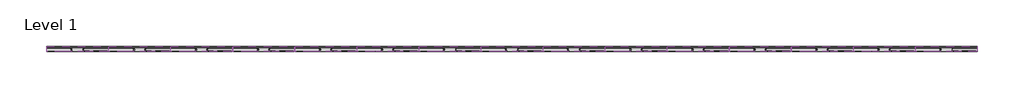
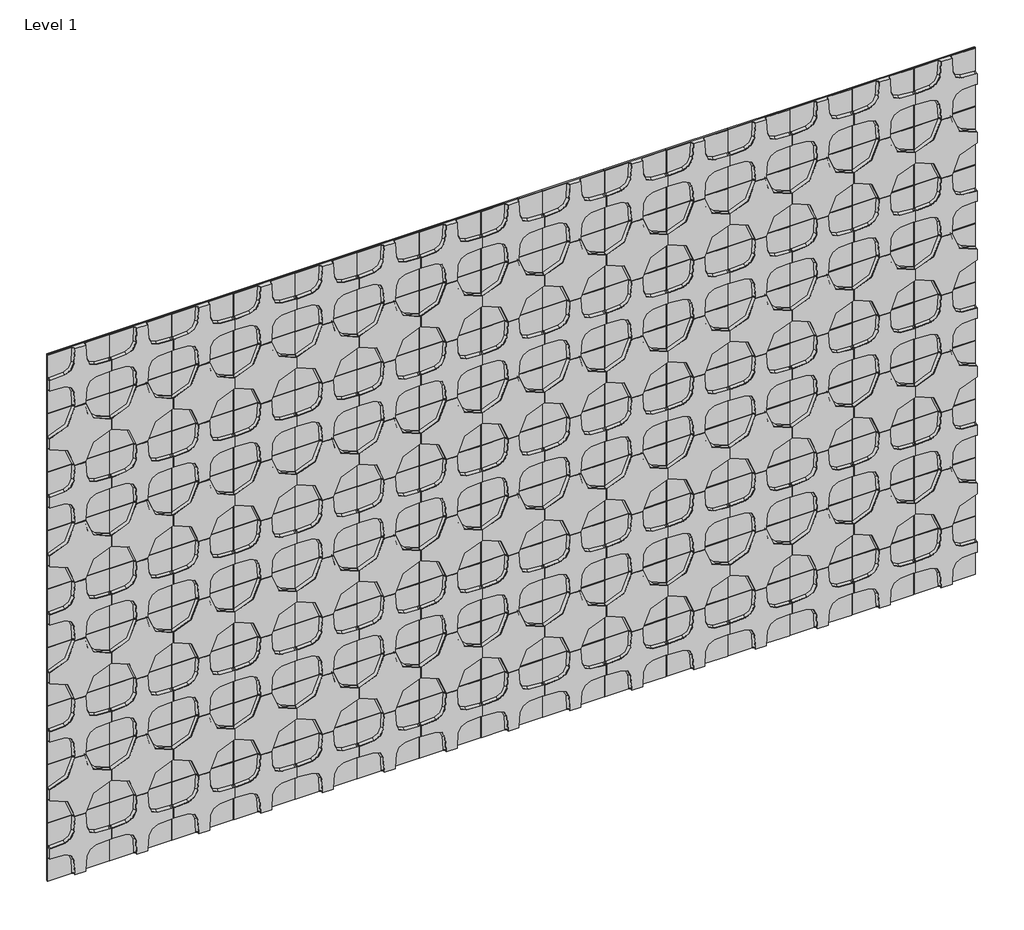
# One storey: 135 proxies.
"""IFC4 building model written with IfcOpenShell, lengths in millimetres."""

from ifc_helpers import new_model, si_unit, origin, place, context, project, spatial, transform, mapped, element, save
from components import specialty_equipment_d3eebbf5, specialty_equipment_d5421138

model = new_model("IFC4")

# Units and contexts
model_context = context("Model", 3, world=origin())
ifc_project = project(units=[si_unit("LENGTHUNIT", "METRE", prefix="MILLI")], contexts=[model_context])

# Site, building, storey
site = spatial("IfcSite", under=ifc_project)
building = spatial("IfcBuilding", under=site)
storey = spatial("IfcBuildingStorey", under=building, Name="Level 1", Elevation=0.0)

# Proxies
placement = place(None, origin())
specialty_equipment_shape = specialty_equipment_d3eebbf5(model_context)
element("IfcBuildingElementProxy", 1, Name="Spinneybeck_Quartile : Quartile 1", ObjectType="Spinneybeck_Quartile : Quartile 1", at=placement, inside=storey, context=model_context, shape_type="MappedRepresentation", body=[
    mapped(specialty_equipment_shape, transform((-9133.2606366, 2074.1714817, 2286.0), x_axis=(1.0, 0.0, 0.0), y_axis=(0.0, 0.0, 1.0), z_axis=(0.0, -1.0, 0.0))),
])
element("IfcBuildingElementProxy", 2, Name="Spinneybeck_Quartile : Quartile 1", ObjectType="Spinneybeck_Quartile : Quartile 1", at=placement, inside=storey, context=model_context, shape_type="MappedRepresentation", body=[
    mapped(specialty_equipment_shape, transform((-8828.4606366, 2074.1714817, 2286.0), x_axis=(1.0, 0.0, 0.0), y_axis=(0.0, 0.0, 1.0), z_axis=(0.0, -1.0, 0.0))),
])
element("IfcBuildingElementProxy", 3, Name="Spinneybeck_Quartile : Quartile 1", ObjectType="Spinneybeck_Quartile : Quartile 1", at=placement, inside=storey, context=model_context, shape_type="MappedRepresentation", body=[
    mapped(specialty_equipment_shape, transform((-8523.6606366, 2074.1714817, 2286.0), x_axis=(1.0, 0.0, 0.0), y_axis=(0.0, 0.0, 1.0), z_axis=(0.0, -1.0, 0.0))),
])
element("IfcBuildingElementProxy", 4, Name="Spinneybeck_Quartile : Quartile 1", ObjectType="Spinneybeck_Quartile : Quartile 1", at=placement, inside=storey, context=model_context, shape_type="MappedRepresentation", body=[
    mapped(specialty_equipment_shape, transform((-8218.8606366, 2074.1714817, 2286.0), x_axis=(1.0, 0.0, 0.0), y_axis=(0.0, 0.0, 1.0), z_axis=(0.0, -1.0, 0.0))),
])
element("IfcBuildingElementProxy", 5, Name="Spinneybeck_Quartile : Quartile 1", ObjectType="Spinneybeck_Quartile : Quartile 1", at=placement, inside=storey, context=model_context, shape_type="MappedRepresentation", body=[
    mapped(specialty_equipment_shape, transform((-7914.0606366, 2074.1714817, 2286.0), x_axis=(1.0, 0.0, 0.0), y_axis=(0.0, 0.0, 1.0), z_axis=(0.0, -1.0, 0.0))),
])
element("IfcBuildingElementProxy", 6, Name="Spinneybeck_Quartile : Quartile 1", ObjectType="Spinneybeck_Quartile : Quartile 1", at=placement, inside=storey, context=model_context, shape_type="MappedRepresentation", body=[
    mapped(specialty_equipment_shape, transform((-7609.2606366, 2074.1714817, 2286.0), x_axis=(1.0, 0.0, 0.0), y_axis=(0.0, 0.0, 1.0), z_axis=(0.0, -1.0, 0.0))),
])
element("IfcBuildingElementProxy", 7, Name="Spinneybeck_Quartile : Quartile 1", ObjectType="Spinneybeck_Quartile : Quartile 1", at=placement, inside=storey, context=model_context, shape_type="MappedRepresentation", body=[
    mapped(specialty_equipment_shape, transform((-7304.4606366, 2074.1714817, 2286.0), x_axis=(1.0, 0.0, 0.0), y_axis=(0.0, 0.0, 1.0), z_axis=(0.0, -1.0, 0.0))),
])
element("IfcBuildingElementProxy", 8, Name="Spinneybeck_Quartile : Quartile 1", ObjectType="Spinneybeck_Quartile : Quartile 1", at=placement, inside=storey, context=model_context, shape_type="MappedRepresentation", body=[
    mapped(specialty_equipment_shape, transform((-6999.6606366, 2074.1714817, 2286.0), x_axis=(1.0, 0.0, 0.0), y_axis=(0.0, 0.0, 1.0), z_axis=(0.0, -1.0, 0.0))),
])
element("IfcBuildingElementProxy", 9, Name="Spinneybeck_Quartile : Quartile 1", ObjectType="Spinneybeck_Quartile : Quartile 1", at=placement, inside=storey, context=model_context, shape_type="MappedRepresentation", body=[
    mapped(specialty_equipment_shape, transform((-6694.8606366, 2074.1714817, 2286.0), x_axis=(1.0, 0.0, 0.0), y_axis=(0.0, 0.0, 1.0), z_axis=(0.0, -1.0, 0.0))),
])
element("IfcBuildingElementProxy", 10, Name="Spinneybeck_Quartile : Quartile 1", ObjectType="Spinneybeck_Quartile : Quartile 1", at=placement, inside=storey, context=model_context, shape_type="MappedRepresentation", body=[
    mapped(specialty_equipment_shape, transform((-6390.0606366, 2074.1714817, 2286.0), x_axis=(1.0, 0.0, 0.0), y_axis=(0.0, 0.0, 1.0), z_axis=(0.0, -1.0, 0.0))),
])
element("IfcBuildingElementProxy", 11, Name="Spinneybeck_Quartile : Quartile 1", ObjectType="Spinneybeck_Quartile : Quartile 1", at=placement, inside=storey, context=model_context, shape_type="MappedRepresentation", body=[
    mapped(specialty_equipment_shape, transform((-6085.2606366, 2074.1714817, 2286.0), x_axis=(1.0, 0.0, 0.0), y_axis=(0.0, 0.0, 1.0), z_axis=(0.0, -1.0, 0.0))),
])
element("IfcBuildingElementProxy", 12, Name="Spinneybeck_Quartile : Quartile 1", ObjectType="Spinneybeck_Quartile : Quartile 1", at=placement, inside=storey, context=model_context, shape_type="MappedRepresentation", body=[
    mapped(specialty_equipment_shape, transform((-5780.4606366, 2074.1714817, 2286.0), x_axis=(1.0, 0.0, 0.0), y_axis=(0.0, 0.0, 1.0), z_axis=(0.0, -1.0, 0.0))),
])
element("IfcBuildingElementProxy", 13, Name="Spinneybeck_Quartile : Quartile 1", ObjectType="Spinneybeck_Quartile : Quartile 1", at=placement, inside=storey, context=model_context, shape_type="MappedRepresentation", body=[
    mapped(specialty_equipment_shape, transform((-5475.6606366, 2074.1714817, 2286.0), x_axis=(1.0, 0.0, 0.0), y_axis=(0.0, 0.0, 1.0), z_axis=(0.0, -1.0, 0.0))),
])
element("IfcBuildingElementProxy", 14, Name="Spinneybeck_Quartile : Quartile 1", ObjectType="Spinneybeck_Quartile : Quartile 1", at=placement, inside=storey, context=model_context, shape_type="MappedRepresentation", body=[
    mapped(specialty_equipment_shape, transform((-5170.8606366, 2074.1714817, 2286.0), x_axis=(1.0, 0.0, 0.0), y_axis=(0.0, 0.0, 1.0), z_axis=(0.0, -1.0, 0.0))),
])
element("IfcBuildingElementProxy", 15, Name="Spinneybeck_Quartile : Quartile 1", ObjectType="Spinneybeck_Quartile : Quartile 1", at=placement, inside=storey, context=model_context, shape_type="MappedRepresentation", body=[
    mapped(specialty_equipment_shape, transform((-4866.0606366, 2074.1714817, 2286.0), x_axis=(1.0, 0.0, 0.0), y_axis=(0.0, 0.0, 1.0), z_axis=(0.0, -1.0, 0.0))),
])
element("IfcBuildingElementProxy", 16, Name="Spinneybeck_Quartile : Quartile 1", ObjectType="Spinneybeck_Quartile : Quartile 1", at=placement, inside=storey, context=model_context, shape_type="MappedRepresentation", body=[
    mapped(specialty_equipment_shape, transform((-9133.2606366, 2074.1714817, 1676.4), x_axis=(1.0, 0.0, 0.0), y_axis=(0.0, 0.0, 1.0), z_axis=(0.0, -1.0, 0.0))),
])
element("IfcBuildingElementProxy", 17, Name="Spinneybeck_Quartile : Quartile 1", ObjectType="Spinneybeck_Quartile : Quartile 1", at=placement, inside=storey, context=model_context, shape_type="MappedRepresentation", body=[
    mapped(specialty_equipment_shape, transform((-8828.4606366, 2074.1714817, 1676.4), x_axis=(1.0, 0.0, 0.0), y_axis=(0.0, 0.0, 1.0), z_axis=(0.0, -1.0, 0.0))),
])
element("IfcBuildingElementProxy", 18, Name="Spinneybeck_Quartile : Quartile 1", ObjectType="Spinneybeck_Quartile : Quartile 1", at=placement, inside=storey, context=model_context, shape_type="MappedRepresentation", body=[
    mapped(specialty_equipment_shape, transform((-8523.6606366, 2074.1714817, 1676.4), x_axis=(1.0, 0.0, 0.0), y_axis=(0.0, 0.0, 1.0), z_axis=(0.0, -1.0, 0.0))),
])
element("IfcBuildingElementProxy", 19, Name="Spinneybeck_Quartile : Quartile 1", ObjectType="Spinneybeck_Quartile : Quartile 1", at=placement, inside=storey, context=model_context, shape_type="MappedRepresentation", body=[
    mapped(specialty_equipment_shape, transform((-8218.8606366, 2074.1714817, 1676.4), x_axis=(1.0, 0.0, 0.0), y_axis=(0.0, 0.0, 1.0), z_axis=(0.0, -1.0, 0.0))),
])
element("IfcBuildingElementProxy", 20, Name="Spinneybeck_Quartile : Quartile 1", ObjectType="Spinneybeck_Quartile : Quartile 1", at=placement, inside=storey, context=model_context, shape_type="MappedRepresentation", body=[
    mapped(specialty_equipment_shape, transform((-7914.0606366, 2074.1714817, 1676.4), x_axis=(1.0, 0.0, 0.0), y_axis=(0.0, 0.0, 1.0), z_axis=(0.0, -1.0, 0.0))),
])
element("IfcBuildingElementProxy", 21, Name="Spinneybeck_Quartile : Quartile 1", ObjectType="Spinneybeck_Quartile : Quartile 1", at=placement, inside=storey, context=model_context, shape_type="MappedRepresentation", body=[
    mapped(specialty_equipment_shape, transform((-7609.2606366, 2074.1714817, 1676.4), x_axis=(1.0, 0.0, 0.0), y_axis=(0.0, 0.0, 1.0), z_axis=(0.0, -1.0, 0.0))),
])
element("IfcBuildingElementProxy", 22, Name="Spinneybeck_Quartile : Quartile 1", ObjectType="Spinneybeck_Quartile : Quartile 1", at=placement, inside=storey, context=model_context, shape_type="MappedRepresentation", body=[
    mapped(specialty_equipment_shape, transform((-7304.4606366, 2074.1714817, 1676.4), x_axis=(1.0, 0.0, 0.0), y_axis=(0.0, 0.0, 1.0), z_axis=(0.0, -1.0, 0.0))),
])
element("IfcBuildingElementProxy", 23, Name="Spinneybeck_Quartile : Quartile 1", ObjectType="Spinneybeck_Quartile : Quartile 1", at=placement, inside=storey, context=model_context, shape_type="MappedRepresentation", body=[
    mapped(specialty_equipment_shape, transform((-6999.6606366, 2074.1714817, 1676.4), x_axis=(1.0, 0.0, 0.0), y_axis=(0.0, 0.0, 1.0), z_axis=(0.0, -1.0, 0.0))),
])
element("IfcBuildingElementProxy", 24, Name="Spinneybeck_Quartile : Quartile 1", ObjectType="Spinneybeck_Quartile : Quartile 1", at=placement, inside=storey, context=model_context, shape_type="MappedRepresentation", body=[
    mapped(specialty_equipment_shape, transform((-6694.8606366, 2074.1714817, 1676.4), x_axis=(1.0, 0.0, 0.0), y_axis=(0.0, 0.0, 1.0), z_axis=(0.0, -1.0, 0.0))),
])
element("IfcBuildingElementProxy", 25, Name="Spinneybeck_Quartile : Quartile 1", ObjectType="Spinneybeck_Quartile : Quartile 1", at=placement, inside=storey, context=model_context, shape_type="MappedRepresentation", body=[
    mapped(specialty_equipment_shape, transform((-6390.0606366, 2074.1714817, 1676.4), x_axis=(1.0, 0.0, 0.0), y_axis=(0.0, 0.0, 1.0), z_axis=(0.0, -1.0, 0.0))),
])
element("IfcBuildingElementProxy", 26, Name="Spinneybeck_Quartile : Quartile 1", ObjectType="Spinneybeck_Quartile : Quartile 1", at=placement, inside=storey, context=model_context, shape_type="MappedRepresentation", body=[
    mapped(specialty_equipment_shape, transform((-6085.2606366, 2074.1714817, 1676.4), x_axis=(1.0, 0.0, 0.0), y_axis=(0.0, 0.0, 1.0), z_axis=(0.0, -1.0, 0.0))),
])
element("IfcBuildingElementProxy", 27, Name="Spinneybeck_Quartile : Quartile 1", ObjectType="Spinneybeck_Quartile : Quartile 1", at=placement, inside=storey, context=model_context, shape_type="MappedRepresentation", body=[
    mapped(specialty_equipment_shape, transform((-5780.4606366, 2074.1714817, 1676.4), x_axis=(1.0, 0.0, 0.0), y_axis=(0.0, 0.0, 1.0), z_axis=(0.0, -1.0, 0.0))),
])
element("IfcBuildingElementProxy", 28, Name="Spinneybeck_Quartile : Quartile 1", ObjectType="Spinneybeck_Quartile : Quartile 1", at=placement, inside=storey, context=model_context, shape_type="MappedRepresentation", body=[
    mapped(specialty_equipment_shape, transform((-5475.6606366, 2074.1714817, 1676.4), x_axis=(1.0, 0.0, 0.0), y_axis=(0.0, 0.0, 1.0), z_axis=(0.0, -1.0, 0.0))),
])
element("IfcBuildingElementProxy", 29, Name="Spinneybeck_Quartile : Quartile 1", ObjectType="Spinneybeck_Quartile : Quartile 1", at=placement, inside=storey, context=model_context, shape_type="MappedRepresentation", body=[
    mapped(specialty_equipment_shape, transform((-5170.8606366, 2074.1714817, 1676.4), x_axis=(1.0, 0.0, 0.0), y_axis=(0.0, 0.0, 1.0), z_axis=(0.0, -1.0, 0.0))),
])
element("IfcBuildingElementProxy", 30, Name="Spinneybeck_Quartile : Quartile 1", ObjectType="Spinneybeck_Quartile : Quartile 1", at=placement, inside=storey, context=model_context, shape_type="MappedRepresentation", body=[
    mapped(specialty_equipment_shape, transform((-4866.0606366, 2074.1714817, 1676.4), x_axis=(1.0, 0.0, 0.0), y_axis=(0.0, 0.0, 1.0), z_axis=(0.0, -1.0, 0.0))),
])
element("IfcBuildingElementProxy", 31, Name="Spinneybeck_Quartile : Quartile 1", ObjectType="Spinneybeck_Quartile : Quartile 1", at=placement, inside=storey, context=model_context, shape_type="MappedRepresentation", body=[
    mapped(specialty_equipment_shape, transform((-9133.2606366, 2074.1714817, 1066.8), x_axis=(1.0, 0.0, 0.0), y_axis=(0.0, 0.0, 1.0), z_axis=(0.0, -1.0, 0.0))),
])
element("IfcBuildingElementProxy", 32, Name="Spinneybeck_Quartile : Quartile 1", ObjectType="Spinneybeck_Quartile : Quartile 1", at=placement, inside=storey, context=model_context, shape_type="MappedRepresentation", body=[
    mapped(specialty_equipment_shape, transform((-8828.4606366, 2074.1714817, 1066.8), x_axis=(1.0, 0.0, 0.0), y_axis=(0.0, 0.0, 1.0), z_axis=(0.0, -1.0, 0.0))),
])
element("IfcBuildingElementProxy", 33, Name="Spinneybeck_Quartile : Quartile 1", ObjectType="Spinneybeck_Quartile : Quartile 1", at=placement, inside=storey, context=model_context, shape_type="MappedRepresentation", body=[
    mapped(specialty_equipment_shape, transform((-8523.6606366, 2074.1714817, 1066.8), x_axis=(1.0, 0.0, 0.0), y_axis=(0.0, 0.0, 1.0), z_axis=(0.0, -1.0, 0.0))),
])
element("IfcBuildingElementProxy", 34, Name="Spinneybeck_Quartile : Quartile 1", ObjectType="Spinneybeck_Quartile : Quartile 1", at=placement, inside=storey, context=model_context, shape_type="MappedRepresentation", body=[
    mapped(specialty_equipment_shape, transform((-8218.8606366, 2074.1714817, 1066.8), x_axis=(1.0, 0.0, 0.0), y_axis=(0.0, 0.0, 1.0), z_axis=(0.0, -1.0, 0.0))),
])
element("IfcBuildingElementProxy", 35, Name="Spinneybeck_Quartile : Quartile 1", ObjectType="Spinneybeck_Quartile : Quartile 1", at=placement, inside=storey, context=model_context, shape_type="MappedRepresentation", body=[
    mapped(specialty_equipment_shape, transform((-7914.0606366, 2074.1714817, 1066.8), x_axis=(1.0, 0.0, 0.0), y_axis=(0.0, 0.0, 1.0), z_axis=(0.0, -1.0, 0.0))),
])
element("IfcBuildingElementProxy", 36, Name="Spinneybeck_Quartile : Quartile 1", ObjectType="Spinneybeck_Quartile : Quartile 1", at=placement, inside=storey, context=model_context, shape_type="MappedRepresentation", body=[
    mapped(specialty_equipment_shape, transform((-7609.2606366, 2074.1714817, 1066.8), x_axis=(1.0, 0.0, 0.0), y_axis=(0.0, 0.0, 1.0), z_axis=(0.0, -1.0, 0.0))),
])
element("IfcBuildingElementProxy", 37, Name="Spinneybeck_Quartile : Quartile 1", ObjectType="Spinneybeck_Quartile : Quartile 1", at=placement, inside=storey, context=model_context, shape_type="MappedRepresentation", body=[
    mapped(specialty_equipment_shape, transform((-7304.4606366, 2074.1714817, 1066.8), x_axis=(1.0, 0.0, 0.0), y_axis=(0.0, 0.0, 1.0), z_axis=(0.0, -1.0, 0.0))),
])
element("IfcBuildingElementProxy", 38, Name="Spinneybeck_Quartile : Quartile 1", ObjectType="Spinneybeck_Quartile : Quartile 1", at=placement, inside=storey, context=model_context, shape_type="MappedRepresentation", body=[
    mapped(specialty_equipment_shape, transform((-6999.6606366, 2074.1714817, 1066.8), x_axis=(1.0, 0.0, 0.0), y_axis=(0.0, 0.0, 1.0), z_axis=(0.0, -1.0, 0.0))),
])
element("IfcBuildingElementProxy", 39, Name="Spinneybeck_Quartile : Quartile 1", ObjectType="Spinneybeck_Quartile : Quartile 1", at=placement, inside=storey, context=model_context, shape_type="MappedRepresentation", body=[
    mapped(specialty_equipment_shape, transform((-6694.8606366, 2074.1714817, 1066.8), x_axis=(1.0, 0.0, 0.0), y_axis=(0.0, 0.0, 1.0), z_axis=(0.0, -1.0, 0.0))),
])
element("IfcBuildingElementProxy", 40, Name="Spinneybeck_Quartile : Quartile 1", ObjectType="Spinneybeck_Quartile : Quartile 1", at=placement, inside=storey, context=model_context, shape_type="MappedRepresentation", body=[
    mapped(specialty_equipment_shape, transform((-6390.0606366, 2074.1714817, 1066.8), x_axis=(1.0, 0.0, 0.0), y_axis=(0.0, 0.0, 1.0), z_axis=(0.0, -1.0, 0.0))),
])
element("IfcBuildingElementProxy", 41, Name="Spinneybeck_Quartile : Quartile 1", ObjectType="Spinneybeck_Quartile : Quartile 1", at=placement, inside=storey, context=model_context, shape_type="MappedRepresentation", body=[
    mapped(specialty_equipment_shape, transform((-6085.2606366, 2074.1714817, 1066.8), x_axis=(1.0, 0.0, 0.0), y_axis=(0.0, 0.0, 1.0), z_axis=(0.0, -1.0, 0.0))),
])
element("IfcBuildingElementProxy", 42, Name="Spinneybeck_Quartile : Quartile 1", ObjectType="Spinneybeck_Quartile : Quartile 1", at=placement, inside=storey, context=model_context, shape_type="MappedRepresentation", body=[
    mapped(specialty_equipment_shape, transform((-5780.4606366, 2074.1714817, 1066.8), x_axis=(1.0, 0.0, 0.0), y_axis=(0.0, 0.0, 1.0), z_axis=(0.0, -1.0, 0.0))),
])
element("IfcBuildingElementProxy", 43, Name="Spinneybeck_Quartile : Quartile 1", ObjectType="Spinneybeck_Quartile : Quartile 1", at=placement, inside=storey, context=model_context, shape_type="MappedRepresentation", body=[
    mapped(specialty_equipment_shape, transform((-5475.6606366, 2074.1714817, 1066.8), x_axis=(1.0, 0.0, 0.0), y_axis=(0.0, 0.0, 1.0), z_axis=(0.0, -1.0, 0.0))),
])
element("IfcBuildingElementProxy", 44, Name="Spinneybeck_Quartile : Quartile 1", ObjectType="Spinneybeck_Quartile : Quartile 1", at=placement, inside=storey, context=model_context, shape_type="MappedRepresentation", body=[
    mapped(specialty_equipment_shape, transform((-5170.8606366, 2074.1714817, 1066.8), x_axis=(1.0, 0.0, 0.0), y_axis=(0.0, 0.0, 1.0), z_axis=(0.0, -1.0, 0.0))),
])
element("IfcBuildingElementProxy", 45, Name="Spinneybeck_Quartile : Quartile 1", ObjectType="Spinneybeck_Quartile : Quartile 1", at=placement, inside=storey, context=model_context, shape_type="MappedRepresentation", body=[
    mapped(specialty_equipment_shape, transform((-4866.0606366, 2074.1714817, 1066.8), x_axis=(1.0, 0.0, 0.0), y_axis=(0.0, 0.0, 1.0), z_axis=(0.0, -1.0, 0.0))),
])
element("IfcBuildingElementProxy", 46, Name="Spinneybeck_Quartile : Quartile 1", ObjectType="Spinneybeck_Quartile : Quartile 1", at=placement, inside=storey, context=model_context, shape_type="MappedRepresentation", body=[
    mapped(specialty_equipment_shape, transform((-9133.2606366, 2074.1714817, 457.2), x_axis=(1.0, 0.0, 0.0), y_axis=(0.0, 0.0, 1.0), z_axis=(0.0, -1.0, 0.0))),
])
element("IfcBuildingElementProxy", 47, Name="Spinneybeck_Quartile : Quartile 1", ObjectType="Spinneybeck_Quartile : Quartile 1", at=placement, inside=storey, context=model_context, shape_type="MappedRepresentation", body=[
    mapped(specialty_equipment_shape, transform((-8828.4606366, 2074.1714817, 457.2), x_axis=(1.0, 0.0, 0.0), y_axis=(0.0, 0.0, 1.0), z_axis=(0.0, -1.0, 0.0))),
])
element("IfcBuildingElementProxy", 48, Name="Spinneybeck_Quartile : Quartile 1", ObjectType="Spinneybeck_Quartile : Quartile 1", at=placement, inside=storey, context=model_context, shape_type="MappedRepresentation", body=[
    mapped(specialty_equipment_shape, transform((-8523.6606366, 2074.1714817, 457.2), x_axis=(1.0, 0.0, 0.0), y_axis=(0.0, 0.0, 1.0), z_axis=(0.0, -1.0, 0.0))),
])
element("IfcBuildingElementProxy", 49, Name="Spinneybeck_Quartile : Quartile 1", ObjectType="Spinneybeck_Quartile : Quartile 1", at=placement, inside=storey, context=model_context, shape_type="MappedRepresentation", body=[
    mapped(specialty_equipment_shape, transform((-8218.8606366, 2074.1714817, 457.2), x_axis=(1.0, 0.0, 0.0), y_axis=(0.0, 0.0, 1.0), z_axis=(0.0, -1.0, 0.0))),
])
element("IfcBuildingElementProxy", 50, Name="Spinneybeck_Quartile : Quartile 1", ObjectType="Spinneybeck_Quartile : Quartile 1", at=placement, inside=storey, context=model_context, shape_type="MappedRepresentation", body=[
    mapped(specialty_equipment_shape, transform((-7914.0606366, 2074.1714817, 457.2), x_axis=(1.0, 0.0, 0.0), y_axis=(0.0, 0.0, 1.0), z_axis=(0.0, -1.0, 0.0))),
])
element("IfcBuildingElementProxy", 51, Name="Spinneybeck_Quartile : Quartile 1", ObjectType="Spinneybeck_Quartile : Quartile 1", at=placement, inside=storey, context=model_context, shape_type="MappedRepresentation", body=[
    mapped(specialty_equipment_shape, transform((-7609.2606366, 2074.1714817, 457.2), x_axis=(1.0, 0.0, 0.0), y_axis=(0.0, 0.0, 1.0), z_axis=(0.0, -1.0, 0.0))),
])
element("IfcBuildingElementProxy", 52, Name="Spinneybeck_Quartile : Quartile 1", ObjectType="Spinneybeck_Quartile : Quartile 1", at=placement, inside=storey, context=model_context, shape_type="MappedRepresentation", body=[
    mapped(specialty_equipment_shape, transform((-7304.4606366, 2074.1714817, 457.2), x_axis=(1.0, 0.0, 0.0), y_axis=(0.0, 0.0, 1.0), z_axis=(0.0, -1.0, 0.0))),
])
element("IfcBuildingElementProxy", 53, Name="Spinneybeck_Quartile : Quartile 1", ObjectType="Spinneybeck_Quartile : Quartile 1", at=placement, inside=storey, context=model_context, shape_type="MappedRepresentation", body=[
    mapped(specialty_equipment_shape, transform((-6999.6606366, 2074.1714817, 457.2), x_axis=(1.0, 0.0, 0.0), y_axis=(0.0, 0.0, 1.0), z_axis=(0.0, -1.0, 0.0))),
])
element("IfcBuildingElementProxy", 54, Name="Spinneybeck_Quartile : Quartile 1", ObjectType="Spinneybeck_Quartile : Quartile 1", at=placement, inside=storey, context=model_context, shape_type="MappedRepresentation", body=[
    mapped(specialty_equipment_shape, transform((-6694.8606366, 2074.1714817, 457.2), x_axis=(1.0, 0.0, 0.0), y_axis=(0.0, 0.0, 1.0), z_axis=(0.0, -1.0, 0.0))),
])
element("IfcBuildingElementProxy", 55, Name="Spinneybeck_Quartile : Quartile 1", ObjectType="Spinneybeck_Quartile : Quartile 1", at=placement, inside=storey, context=model_context, shape_type="MappedRepresentation", body=[
    mapped(specialty_equipment_shape, transform((-6390.0606366, 2074.1714817, 457.2), x_axis=(1.0, 0.0, 0.0), y_axis=(0.0, 0.0, 1.0), z_axis=(0.0, -1.0, 0.0))),
])
element("IfcBuildingElementProxy", 56, Name="Spinneybeck_Quartile : Quartile 1", ObjectType="Spinneybeck_Quartile : Quartile 1", at=placement, inside=storey, context=model_context, shape_type="MappedRepresentation", body=[
    mapped(specialty_equipment_shape, transform((-6085.2606366, 2074.1714817, 457.2), x_axis=(1.0, 0.0, 0.0), y_axis=(0.0, 0.0, 1.0), z_axis=(0.0, -1.0, 0.0))),
])
element("IfcBuildingElementProxy", 57, Name="Spinneybeck_Quartile : Quartile 1", ObjectType="Spinneybeck_Quartile : Quartile 1", at=placement, inside=storey, context=model_context, shape_type="MappedRepresentation", body=[
    mapped(specialty_equipment_shape, transform((-5780.4606366, 2074.1714817, 457.2), x_axis=(1.0, 0.0, 0.0), y_axis=(0.0, 0.0, 1.0), z_axis=(0.0, -1.0, 0.0))),
])
element("IfcBuildingElementProxy", 58, Name="Spinneybeck_Quartile : Quartile 1", ObjectType="Spinneybeck_Quartile : Quartile 1", at=placement, inside=storey, context=model_context, shape_type="MappedRepresentation", body=[
    mapped(specialty_equipment_shape, transform((-5475.6606366, 2074.1714817, 457.2), x_axis=(1.0, 0.0, 0.0), y_axis=(0.0, 0.0, 1.0), z_axis=(0.0, -1.0, 0.0))),
])
element("IfcBuildingElementProxy", 59, Name="Spinneybeck_Quartile : Quartile 1", ObjectType="Spinneybeck_Quartile : Quartile 1", at=placement, inside=storey, context=model_context, shape_type="MappedRepresentation", body=[
    mapped(specialty_equipment_shape, transform((-5170.8606366, 2074.1714817, 457.2), x_axis=(1.0, 0.0, 0.0), y_axis=(0.0, 0.0, 1.0), z_axis=(0.0, -1.0, 0.0))),
])
element("IfcBuildingElementProxy", 60, Name="Spinneybeck_Quartile : Quartile 1", ObjectType="Spinneybeck_Quartile : Quartile 1", at=placement, inside=storey, context=model_context, shape_type="MappedRepresentation", body=[
    mapped(specialty_equipment_shape, transform((-4866.0606366, 2074.1714817, 457.2), x_axis=(1.0, 0.0, 0.0), y_axis=(0.0, 0.0, 1.0), z_axis=(0.0, -1.0, 0.0))),
])
specialty_equipment_2_shape = specialty_equipment_d5421138(model_context)
element("IfcBuildingElementProxy", 61, Name="Spinneybeck_Quartile : Quartile 2", ObjectType="Spinneybeck_Quartile : Quartile 2", at=placement, inside=storey, context=model_context, shape_type="MappedRepresentation", body=[
    mapped(specialty_equipment_2_shape, transform((-9133.2606366, 2074.1714817, 2590.8), x_axis=(1.0, 0.0, 0.0), y_axis=(0.0, 0.0, 1.0), z_axis=(0.0, -1.0, 0.0))),
])
element("IfcBuildingElementProxy", 62, Name="Spinneybeck_Quartile : Quartile 2", ObjectType="Spinneybeck_Quartile : Quartile 2", at=placement, inside=storey, context=model_context, shape_type="MappedRepresentation", body=[
    mapped(specialty_equipment_2_shape, transform((-8828.4606366, 2074.1714817, 2590.8), x_axis=(1.0, 0.0, 0.0), y_axis=(0.0, 0.0, 1.0), z_axis=(0.0, -1.0, 0.0))),
])
element("IfcBuildingElementProxy", 63, Name="Spinneybeck_Quartile : Quartile 2", ObjectType="Spinneybeck_Quartile : Quartile 2", at=placement, inside=storey, context=model_context, shape_type="MappedRepresentation", body=[
    mapped(specialty_equipment_2_shape, transform((-8523.6606366, 2074.1714817, 2590.8), x_axis=(1.0, 0.0, 0.0), y_axis=(0.0, 0.0, 1.0), z_axis=(0.0, -1.0, 0.0))),
])
element("IfcBuildingElementProxy", 64, Name="Spinneybeck_Quartile : Quartile 2", ObjectType="Spinneybeck_Quartile : Quartile 2", at=placement, inside=storey, context=model_context, shape_type="MappedRepresentation", body=[
    mapped(specialty_equipment_2_shape, transform((-8218.8606366, 2074.1714817, 2590.8), x_axis=(1.0, 0.0, 0.0), y_axis=(0.0, 0.0, 1.0), z_axis=(0.0, -1.0, 0.0))),
])
element("IfcBuildingElementProxy", 65, Name="Spinneybeck_Quartile : Quartile 2", ObjectType="Spinneybeck_Quartile : Quartile 2", at=placement, inside=storey, context=model_context, shape_type="MappedRepresentation", body=[
    mapped(specialty_equipment_2_shape, transform((-7914.0606366, 2074.1714817, 2590.8), x_axis=(1.0, 0.0, 0.0), y_axis=(0.0, 0.0, 1.0), z_axis=(0.0, -1.0, 0.0))),
])
element("IfcBuildingElementProxy", 66, Name="Spinneybeck_Quartile : Quartile 2", ObjectType="Spinneybeck_Quartile : Quartile 2", at=placement, inside=storey, context=model_context, shape_type="MappedRepresentation", body=[
    mapped(specialty_equipment_2_shape, transform((-7609.2606366, 2074.1714817, 2590.8), x_axis=(1.0, 0.0, 0.0), y_axis=(0.0, 0.0, 1.0), z_axis=(0.0, -1.0, 0.0))),
])
element("IfcBuildingElementProxy", 67, Name="Spinneybeck_Quartile : Quartile 2", ObjectType="Spinneybeck_Quartile : Quartile 2", at=placement, inside=storey, context=model_context, shape_type="MappedRepresentation", body=[
    mapped(specialty_equipment_2_shape, transform((-7304.4606366, 2074.1714817, 2590.8), x_axis=(1.0, 0.0, 0.0), y_axis=(0.0, 0.0, 1.0), z_axis=(0.0, -1.0, 0.0))),
])
element("IfcBuildingElementProxy", 68, Name="Spinneybeck_Quartile : Quartile 2", ObjectType="Spinneybeck_Quartile : Quartile 2", at=placement, inside=storey, context=model_context, shape_type="MappedRepresentation", body=[
    mapped(specialty_equipment_2_shape, transform((-6999.6606366, 2074.1714817, 2590.8), x_axis=(1.0, 0.0, 0.0), y_axis=(0.0, 0.0, 1.0), z_axis=(0.0, -1.0, 0.0))),
])
element("IfcBuildingElementProxy", 69, Name="Spinneybeck_Quartile : Quartile 2", ObjectType="Spinneybeck_Quartile : Quartile 2", at=placement, inside=storey, context=model_context, shape_type="MappedRepresentation", body=[
    mapped(specialty_equipment_2_shape, transform((-6694.8606366, 2074.1714817, 2590.8), x_axis=(1.0, 0.0, 0.0), y_axis=(0.0, 0.0, 1.0), z_axis=(0.0, -1.0, 0.0))),
])
element("IfcBuildingElementProxy", 70, Name="Spinneybeck_Quartile : Quartile 2", ObjectType="Spinneybeck_Quartile : Quartile 2", at=placement, inside=storey, context=model_context, shape_type="MappedRepresentation", body=[
    mapped(specialty_equipment_2_shape, transform((-6390.0606366, 2074.1714817, 2590.8), x_axis=(1.0, 0.0, 0.0), y_axis=(0.0, 0.0, 1.0), z_axis=(0.0, -1.0, 0.0))),
])
element("IfcBuildingElementProxy", 71, Name="Spinneybeck_Quartile : Quartile 2", ObjectType="Spinneybeck_Quartile : Quartile 2", at=placement, inside=storey, context=model_context, shape_type="MappedRepresentation", body=[
    mapped(specialty_equipment_2_shape, transform((-6085.2606366, 2074.1714817, 2590.8), x_axis=(1.0, 0.0, 0.0), y_axis=(0.0, 0.0, 1.0), z_axis=(0.0, -1.0, 0.0))),
])
element("IfcBuildingElementProxy", 72, Name="Spinneybeck_Quartile : Quartile 2", ObjectType="Spinneybeck_Quartile : Quartile 2", at=placement, inside=storey, context=model_context, shape_type="MappedRepresentation", body=[
    mapped(specialty_equipment_2_shape, transform((-5780.4606366, 2074.1714817, 2590.8), x_axis=(1.0, 0.0, 0.0), y_axis=(0.0, 0.0, 1.0), z_axis=(0.0, -1.0, 0.0))),
])
element("IfcBuildingElementProxy", 73, Name="Spinneybeck_Quartile : Quartile 2", ObjectType="Spinneybeck_Quartile : Quartile 2", at=placement, inside=storey, context=model_context, shape_type="MappedRepresentation", body=[
    mapped(specialty_equipment_2_shape, transform((-5475.6606366, 2074.1714817, 2590.8), x_axis=(1.0, 0.0, 0.0), y_axis=(0.0, 0.0, 1.0), z_axis=(0.0, -1.0, 0.0))),
])
element("IfcBuildingElementProxy", 74, Name="Spinneybeck_Quartile : Quartile 2", ObjectType="Spinneybeck_Quartile : Quartile 2", at=placement, inside=storey, context=model_context, shape_type="MappedRepresentation", body=[
    mapped(specialty_equipment_2_shape, transform((-5170.8606366, 2074.1714817, 2590.8), x_axis=(1.0, 0.0, 0.0), y_axis=(0.0, 0.0, 1.0), z_axis=(0.0, -1.0, 0.0))),
])
element("IfcBuildingElementProxy", 75, Name="Spinneybeck_Quartile : Quartile 2", ObjectType="Spinneybeck_Quartile : Quartile 2", at=placement, inside=storey, context=model_context, shape_type="MappedRepresentation", body=[
    mapped(specialty_equipment_2_shape, transform((-4866.0606366, 2074.1714817, 2590.8), x_axis=(1.0, 0.0, 0.0), y_axis=(0.0, 0.0, 1.0), z_axis=(0.0, -1.0, 0.0))),
])
element("IfcBuildingElementProxy", 76, Name="Spinneybeck_Quartile : Quartile 2", ObjectType="Spinneybeck_Quartile : Quartile 2", at=placement, inside=storey, context=model_context, shape_type="MappedRepresentation", body=[
    mapped(specialty_equipment_2_shape, transform((-9133.2606366, 2074.1714817, 1981.2), x_axis=(1.0, 0.0, 0.0), y_axis=(0.0, 0.0, 1.0), z_axis=(0.0, -1.0, 0.0))),
])
element("IfcBuildingElementProxy", 77, Name="Spinneybeck_Quartile : Quartile 2", ObjectType="Spinneybeck_Quartile : Quartile 2", at=placement, inside=storey, context=model_context, shape_type="MappedRepresentation", body=[
    mapped(specialty_equipment_2_shape, transform((-8828.4606366, 2074.1714817, 1981.2), x_axis=(1.0, 0.0, 0.0), y_axis=(0.0, 0.0, 1.0), z_axis=(0.0, -1.0, 0.0))),
])
element("IfcBuildingElementProxy", 78, Name="Spinneybeck_Quartile : Quartile 2", ObjectType="Spinneybeck_Quartile : Quartile 2", at=placement, inside=storey, context=model_context, shape_type="MappedRepresentation", body=[
    mapped(specialty_equipment_2_shape, transform((-8523.6606366, 2074.1714817, 1981.2), x_axis=(1.0, 0.0, 0.0), y_axis=(0.0, 0.0, 1.0), z_axis=(0.0, -1.0, 0.0))),
])
element("IfcBuildingElementProxy", 79, Name="Spinneybeck_Quartile : Quartile 2", ObjectType="Spinneybeck_Quartile : Quartile 2", at=placement, inside=storey, context=model_context, shape_type="MappedRepresentation", body=[
    mapped(specialty_equipment_2_shape, transform((-8218.8606366, 2074.1714817, 1981.2), x_axis=(1.0, 0.0, 0.0), y_axis=(0.0, 0.0, 1.0), z_axis=(0.0, -1.0, 0.0))),
])
element("IfcBuildingElementProxy", 80, Name="Spinneybeck_Quartile : Quartile 2", ObjectType="Spinneybeck_Quartile : Quartile 2", at=placement, inside=storey, context=model_context, shape_type="MappedRepresentation", body=[
    mapped(specialty_equipment_2_shape, transform((-7914.0606366, 2074.1714817, 1981.2), x_axis=(1.0, 0.0, 0.0), y_axis=(0.0, 0.0, 1.0), z_axis=(0.0, -1.0, 0.0))),
])
element("IfcBuildingElementProxy", 81, Name="Spinneybeck_Quartile : Quartile 2", ObjectType="Spinneybeck_Quartile : Quartile 2", at=placement, inside=storey, context=model_context, shape_type="MappedRepresentation", body=[
    mapped(specialty_equipment_2_shape, transform((-7609.2606366, 2074.1714817, 1981.2), x_axis=(1.0, 0.0, 0.0), y_axis=(0.0, 0.0, 1.0), z_axis=(0.0, -1.0, 0.0))),
])
element("IfcBuildingElementProxy", 82, Name="Spinneybeck_Quartile : Quartile 2", ObjectType="Spinneybeck_Quartile : Quartile 2", at=placement, inside=storey, context=model_context, shape_type="MappedRepresentation", body=[
    mapped(specialty_equipment_2_shape, transform((-7304.4606366, 2074.1714817, 1981.2), x_axis=(1.0, 0.0, 0.0), y_axis=(0.0, 0.0, 1.0), z_axis=(0.0, -1.0, 0.0))),
])
element("IfcBuildingElementProxy", 83, Name="Spinneybeck_Quartile : Quartile 2", ObjectType="Spinneybeck_Quartile : Quartile 2", at=placement, inside=storey, context=model_context, shape_type="MappedRepresentation", body=[
    mapped(specialty_equipment_2_shape, transform((-6999.6606366, 2074.1714817, 1981.2), x_axis=(1.0, 0.0, 0.0), y_axis=(0.0, 0.0, 1.0), z_axis=(0.0, -1.0, 0.0))),
])
element("IfcBuildingElementProxy", 84, Name="Spinneybeck_Quartile : Quartile 2", ObjectType="Spinneybeck_Quartile : Quartile 2", at=placement, inside=storey, context=model_context, shape_type="MappedRepresentation", body=[
    mapped(specialty_equipment_2_shape, transform((-6694.8606366, 2074.1714817, 1981.2), x_axis=(1.0, 0.0, 0.0), y_axis=(0.0, 0.0, 1.0), z_axis=(0.0, -1.0, 0.0))),
])
element("IfcBuildingElementProxy", 85, Name="Spinneybeck_Quartile : Quartile 2", ObjectType="Spinneybeck_Quartile : Quartile 2", at=placement, inside=storey, context=model_context, shape_type="MappedRepresentation", body=[
    mapped(specialty_equipment_2_shape, transform((-6390.0606366, 2074.1714817, 1981.2), x_axis=(1.0, 0.0, 0.0), y_axis=(0.0, 0.0, 1.0), z_axis=(0.0, -1.0, 0.0))),
])
element("IfcBuildingElementProxy", 86, Name="Spinneybeck_Quartile : Quartile 2", ObjectType="Spinneybeck_Quartile : Quartile 2", at=placement, inside=storey, context=model_context, shape_type="MappedRepresentation", body=[
    mapped(specialty_equipment_2_shape, transform((-6085.2606366, 2074.1714817, 1981.2), x_axis=(1.0, 0.0, 0.0), y_axis=(0.0, 0.0, 1.0), z_axis=(0.0, -1.0, 0.0))),
])
element("IfcBuildingElementProxy", 87, Name="Spinneybeck_Quartile : Quartile 2", ObjectType="Spinneybeck_Quartile : Quartile 2", at=placement, inside=storey, context=model_context, shape_type="MappedRepresentation", body=[
    mapped(specialty_equipment_2_shape, transform((-5780.4606366, 2074.1714817, 1981.2), x_axis=(1.0, 0.0, 0.0), y_axis=(0.0, 0.0, 1.0), z_axis=(0.0, -1.0, 0.0))),
])
element("IfcBuildingElementProxy", 88, Name="Spinneybeck_Quartile : Quartile 2", ObjectType="Spinneybeck_Quartile : Quartile 2", at=placement, inside=storey, context=model_context, shape_type="MappedRepresentation", body=[
    mapped(specialty_equipment_2_shape, transform((-5475.6606366, 2074.1714817, 1981.2), x_axis=(1.0, 0.0, 0.0), y_axis=(0.0, 0.0, 1.0), z_axis=(0.0, -1.0, 0.0))),
])
element("IfcBuildingElementProxy", 89, Name="Spinneybeck_Quartile : Quartile 2", ObjectType="Spinneybeck_Quartile : Quartile 2", at=placement, inside=storey, context=model_context, shape_type="MappedRepresentation", body=[
    mapped(specialty_equipment_2_shape, transform((-5170.8606366, 2074.1714817, 1981.2), x_axis=(1.0, 0.0, 0.0), y_axis=(0.0, 0.0, 1.0), z_axis=(0.0, -1.0, 0.0))),
])
element("IfcBuildingElementProxy", 90, Name="Spinneybeck_Quartile : Quartile 2", ObjectType="Spinneybeck_Quartile : Quartile 2", at=placement, inside=storey, context=model_context, shape_type="MappedRepresentation", body=[
    mapped(specialty_equipment_2_shape, transform((-4866.0606366, 2074.1714817, 1981.2), x_axis=(1.0, 0.0, 0.0), y_axis=(0.0, 0.0, 1.0), z_axis=(0.0, -1.0, 0.0))),
])
element("IfcBuildingElementProxy", 91, Name="Spinneybeck_Quartile : Quartile 2", ObjectType="Spinneybeck_Quartile : Quartile 2", at=placement, inside=storey, context=model_context, shape_type="MappedRepresentation", body=[
    mapped(specialty_equipment_2_shape, transform((-9133.2606366, 2074.1714817, 1371.6), x_axis=(1.0, 0.0, 0.0), y_axis=(0.0, 0.0, 1.0), z_axis=(0.0, -1.0, 0.0))),
])
element("IfcBuildingElementProxy", 92, Name="Spinneybeck_Quartile : Quartile 2", ObjectType="Spinneybeck_Quartile : Quartile 2", at=placement, inside=storey, context=model_context, shape_type="MappedRepresentation", body=[
    mapped(specialty_equipment_2_shape, transform((-8828.4606366, 2074.1714817, 1371.6), x_axis=(1.0, 0.0, 0.0), y_axis=(0.0, 0.0, 1.0), z_axis=(0.0, -1.0, 0.0))),
])
element("IfcBuildingElementProxy", 93, Name="Spinneybeck_Quartile : Quartile 2", ObjectType="Spinneybeck_Quartile : Quartile 2", at=placement, inside=storey, context=model_context, shape_type="MappedRepresentation", body=[
    mapped(specialty_equipment_2_shape, transform((-8523.6606366, 2074.1714817, 1371.6), x_axis=(1.0, 0.0, 0.0), y_axis=(0.0, 0.0, 1.0), z_axis=(0.0, -1.0, 0.0))),
])
element("IfcBuildingElementProxy", 94, Name="Spinneybeck_Quartile : Quartile 2", ObjectType="Spinneybeck_Quartile : Quartile 2", at=placement, inside=storey, context=model_context, shape_type="MappedRepresentation", body=[
    mapped(specialty_equipment_2_shape, transform((-8218.8606366, 2074.1714817, 1371.6), x_axis=(1.0, 0.0, 0.0), y_axis=(0.0, 0.0, 1.0), z_axis=(0.0, -1.0, 0.0))),
])
element("IfcBuildingElementProxy", 95, Name="Spinneybeck_Quartile : Quartile 2", ObjectType="Spinneybeck_Quartile : Quartile 2", at=placement, inside=storey, context=model_context, shape_type="MappedRepresentation", body=[
    mapped(specialty_equipment_2_shape, transform((-7914.0606366, 2074.1714817, 1371.6), x_axis=(1.0, 0.0, 0.0), y_axis=(0.0, 0.0, 1.0), z_axis=(0.0, -1.0, 0.0))),
])
element("IfcBuildingElementProxy", 96, Name="Spinneybeck_Quartile : Quartile 2", ObjectType="Spinneybeck_Quartile : Quartile 2", at=placement, inside=storey, context=model_context, shape_type="MappedRepresentation", body=[
    mapped(specialty_equipment_2_shape, transform((-7609.2606366, 2074.1714817, 1371.6), x_axis=(1.0, 0.0, 0.0), y_axis=(0.0, 0.0, 1.0), z_axis=(0.0, -1.0, 0.0))),
])
element("IfcBuildingElementProxy", 97, Name="Spinneybeck_Quartile : Quartile 2", ObjectType="Spinneybeck_Quartile : Quartile 2", at=placement, inside=storey, context=model_context, shape_type="MappedRepresentation", body=[
    mapped(specialty_equipment_2_shape, transform((-7304.4606366, 2074.1714817, 1371.6), x_axis=(1.0, 0.0, 0.0), y_axis=(0.0, 0.0, 1.0), z_axis=(0.0, -1.0, 0.0))),
])
element("IfcBuildingElementProxy", 98, Name="Spinneybeck_Quartile : Quartile 2", ObjectType="Spinneybeck_Quartile : Quartile 2", at=placement, inside=storey, context=model_context, shape_type="MappedRepresentation", body=[
    mapped(specialty_equipment_2_shape, transform((-6999.6606366, 2074.1714817, 1371.6), x_axis=(1.0, 0.0, 0.0), y_axis=(0.0, 0.0, 1.0), z_axis=(0.0, -1.0, 0.0))),
])
element("IfcBuildingElementProxy", 99, Name="Spinneybeck_Quartile : Quartile 2", ObjectType="Spinneybeck_Quartile : Quartile 2", at=placement, inside=storey, context=model_context, shape_type="MappedRepresentation", body=[
    mapped(specialty_equipment_2_shape, transform((-6694.8606366, 2074.1714817, 1371.6), x_axis=(1.0, 0.0, 0.0), y_axis=(0.0, 0.0, 1.0), z_axis=(0.0, -1.0, 0.0))),
])
element("IfcBuildingElementProxy", 100, Name="Spinneybeck_Quartile : Quartile 2", ObjectType="Spinneybeck_Quartile : Quartile 2", at=placement, inside=storey, context=model_context, shape_type="MappedRepresentation", body=[
    mapped(specialty_equipment_2_shape, transform((-6390.0606366, 2074.1714817, 1371.6), x_axis=(1.0, 0.0, 0.0), y_axis=(0.0, 0.0, 1.0), z_axis=(0.0, -1.0, 0.0))),
])
element("IfcBuildingElementProxy", 101, Name="Spinneybeck_Quartile : Quartile 2", ObjectType="Spinneybeck_Quartile : Quartile 2", at=placement, inside=storey, context=model_context, shape_type="MappedRepresentation", body=[
    mapped(specialty_equipment_2_shape, transform((-6085.2606366, 2074.1714817, 1371.6), x_axis=(1.0, 0.0, 0.0), y_axis=(0.0, 0.0, 1.0), z_axis=(0.0, -1.0, 0.0))),
])
element("IfcBuildingElementProxy", 102, Name="Spinneybeck_Quartile : Quartile 2", ObjectType="Spinneybeck_Quartile : Quartile 2", at=placement, inside=storey, context=model_context, shape_type="MappedRepresentation", body=[
    mapped(specialty_equipment_2_shape, transform((-5780.4606366, 2074.1714817, 1371.6), x_axis=(1.0, 0.0, 0.0), y_axis=(0.0, 0.0, 1.0), z_axis=(0.0, -1.0, 0.0))),
])
element("IfcBuildingElementProxy", 103, Name="Spinneybeck_Quartile : Quartile 2", ObjectType="Spinneybeck_Quartile : Quartile 2", at=placement, inside=storey, context=model_context, shape_type="MappedRepresentation", body=[
    mapped(specialty_equipment_2_shape, transform((-5475.6606366, 2074.1714817, 1371.6), x_axis=(1.0, 0.0, 0.0), y_axis=(0.0, 0.0, 1.0), z_axis=(0.0, -1.0, 0.0))),
])
element("IfcBuildingElementProxy", 104, Name="Spinneybeck_Quartile : Quartile 2", ObjectType="Spinneybeck_Quartile : Quartile 2", at=placement, inside=storey, context=model_context, shape_type="MappedRepresentation", body=[
    mapped(specialty_equipment_2_shape, transform((-5170.8606366, 2074.1714817, 1371.6), x_axis=(1.0, 0.0, 0.0), y_axis=(0.0, 0.0, 1.0), z_axis=(0.0, -1.0, 0.0))),
])
element("IfcBuildingElementProxy", 105, Name="Spinneybeck_Quartile : Quartile 2", ObjectType="Spinneybeck_Quartile : Quartile 2", at=placement, inside=storey, context=model_context, shape_type="MappedRepresentation", body=[
    mapped(specialty_equipment_2_shape, transform((-4866.0606366, 2074.1714817, 1371.6), x_axis=(1.0, 0.0, 0.0), y_axis=(0.0, 0.0, 1.0), z_axis=(0.0, -1.0, 0.0))),
])
element("IfcBuildingElementProxy", 106, Name="Spinneybeck_Quartile : Quartile 2", ObjectType="Spinneybeck_Quartile : Quartile 2", at=placement, inside=storey, context=model_context, shape_type="MappedRepresentation", body=[
    mapped(specialty_equipment_2_shape, transform((-9133.2606366, 2074.1714817, 762.0), x_axis=(1.0, 0.0, 0.0), y_axis=(0.0, 0.0, 1.0), z_axis=(0.0, -1.0, 0.0))),
])
element("IfcBuildingElementProxy", 107, Name="Spinneybeck_Quartile : Quartile 2", ObjectType="Spinneybeck_Quartile : Quartile 2", at=placement, inside=storey, context=model_context, shape_type="MappedRepresentation", body=[
    mapped(specialty_equipment_2_shape, transform((-8828.4606366, 2074.1714817, 762.0), x_axis=(1.0, 0.0, 0.0), y_axis=(0.0, 0.0, 1.0), z_axis=(0.0, -1.0, 0.0))),
])
element("IfcBuildingElementProxy", 108, Name="Spinneybeck_Quartile : Quartile 2", ObjectType="Spinneybeck_Quartile : Quartile 2", at=placement, inside=storey, context=model_context, shape_type="MappedRepresentation", body=[
    mapped(specialty_equipment_2_shape, transform((-8523.6606366, 2074.1714817, 762.0), x_axis=(1.0, 0.0, 0.0), y_axis=(0.0, 0.0, 1.0), z_axis=(0.0, -1.0, 0.0))),
])
element("IfcBuildingElementProxy", 109, Name="Spinneybeck_Quartile : Quartile 2", ObjectType="Spinneybeck_Quartile : Quartile 2", at=placement, inside=storey, context=model_context, shape_type="MappedRepresentation", body=[
    mapped(specialty_equipment_2_shape, transform((-8218.8606366, 2074.1714817, 762.0), x_axis=(1.0, 0.0, 0.0), y_axis=(0.0, 0.0, 1.0), z_axis=(0.0, -1.0, 0.0))),
])
element("IfcBuildingElementProxy", 110, Name="Spinneybeck_Quartile : Quartile 2", ObjectType="Spinneybeck_Quartile : Quartile 2", at=placement, inside=storey, context=model_context, shape_type="MappedRepresentation", body=[
    mapped(specialty_equipment_2_shape, transform((-7914.0606366, 2074.1714817, 762.0), x_axis=(1.0, 0.0, 0.0), y_axis=(0.0, 0.0, 1.0), z_axis=(0.0, -1.0, 0.0))),
])
element("IfcBuildingElementProxy", 111, Name="Spinneybeck_Quartile : Quartile 2", ObjectType="Spinneybeck_Quartile : Quartile 2", at=placement, inside=storey, context=model_context, shape_type="MappedRepresentation", body=[
    mapped(specialty_equipment_2_shape, transform((-7609.2606366, 2074.1714817, 762.0), x_axis=(1.0, 0.0, 0.0), y_axis=(0.0, 0.0, 1.0), z_axis=(0.0, -1.0, 0.0))),
])
element("IfcBuildingElementProxy", 112, Name="Spinneybeck_Quartile : Quartile 2", ObjectType="Spinneybeck_Quartile : Quartile 2", at=placement, inside=storey, context=model_context, shape_type="MappedRepresentation", body=[
    mapped(specialty_equipment_2_shape, transform((-7304.4606366, 2074.1714817, 762.0), x_axis=(1.0, 0.0, 0.0), y_axis=(0.0, 0.0, 1.0), z_axis=(0.0, -1.0, 0.0))),
])
element("IfcBuildingElementProxy", 113, Name="Spinneybeck_Quartile : Quartile 2", ObjectType="Spinneybeck_Quartile : Quartile 2", at=placement, inside=storey, context=model_context, shape_type="MappedRepresentation", body=[
    mapped(specialty_equipment_2_shape, transform((-6999.6606366, 2074.1714817, 762.0), x_axis=(1.0, 0.0, 0.0), y_axis=(0.0, 0.0, 1.0), z_axis=(0.0, -1.0, 0.0))),
])
element("IfcBuildingElementProxy", 114, Name="Spinneybeck_Quartile : Quartile 2", ObjectType="Spinneybeck_Quartile : Quartile 2", at=placement, inside=storey, context=model_context, shape_type="MappedRepresentation", body=[
    mapped(specialty_equipment_2_shape, transform((-6694.8606366, 2074.1714817, 762.0), x_axis=(1.0, 0.0, 0.0), y_axis=(0.0, 0.0, 1.0), z_axis=(0.0, -1.0, 0.0))),
])
element("IfcBuildingElementProxy", 115, Name="Spinneybeck_Quartile : Quartile 2", ObjectType="Spinneybeck_Quartile : Quartile 2", at=placement, inside=storey, context=model_context, shape_type="MappedRepresentation", body=[
    mapped(specialty_equipment_2_shape, transform((-6390.0606366, 2074.1714817, 762.0), x_axis=(1.0, 0.0, 0.0), y_axis=(0.0, 0.0, 1.0), z_axis=(0.0, -1.0, 0.0))),
])
element("IfcBuildingElementProxy", 116, Name="Spinneybeck_Quartile : Quartile 2", ObjectType="Spinneybeck_Quartile : Quartile 2", at=placement, inside=storey, context=model_context, shape_type="MappedRepresentation", body=[
    mapped(specialty_equipment_2_shape, transform((-6085.2606366, 2074.1714817, 762.0), x_axis=(1.0, 0.0, 0.0), y_axis=(0.0, 0.0, 1.0), z_axis=(0.0, -1.0, 0.0))),
])
element("IfcBuildingElementProxy", 117, Name="Spinneybeck_Quartile : Quartile 2", ObjectType="Spinneybeck_Quartile : Quartile 2", at=placement, inside=storey, context=model_context, shape_type="MappedRepresentation", body=[
    mapped(specialty_equipment_2_shape, transform((-5780.4606366, 2074.1714817, 762.0), x_axis=(1.0, 0.0, 0.0), y_axis=(0.0, 0.0, 1.0), z_axis=(0.0, -1.0, 0.0))),
])
element("IfcBuildingElementProxy", 118, Name="Spinneybeck_Quartile : Quartile 2", ObjectType="Spinneybeck_Quartile : Quartile 2", at=placement, inside=storey, context=model_context, shape_type="MappedRepresentation", body=[
    mapped(specialty_equipment_2_shape, transform((-5475.6606366, 2074.1714817, 762.0), x_axis=(1.0, 0.0, 0.0), y_axis=(0.0, 0.0, 1.0), z_axis=(0.0, -1.0, 0.0))),
])
element("IfcBuildingElementProxy", 119, Name="Spinneybeck_Quartile : Quartile 2", ObjectType="Spinneybeck_Quartile : Quartile 2", at=placement, inside=storey, context=model_context, shape_type="MappedRepresentation", body=[
    mapped(specialty_equipment_2_shape, transform((-5170.8606366, 2074.1714817, 762.0), x_axis=(1.0, 0.0, 0.0), y_axis=(0.0, 0.0, 1.0), z_axis=(0.0, -1.0, 0.0))),
])
element("IfcBuildingElementProxy", 120, Name="Spinneybeck_Quartile : Quartile 2", ObjectType="Spinneybeck_Quartile : Quartile 2", at=placement, inside=storey, context=model_context, shape_type="MappedRepresentation", body=[
    mapped(specialty_equipment_2_shape, transform((-4866.0606366, 2074.1714817, 762.0), x_axis=(1.0, 0.0, 0.0), y_axis=(0.0, 0.0, 1.0), z_axis=(0.0, -1.0, 0.0))),
])
element("IfcBuildingElementProxy", 121, Name="Spinneybeck_Quartile : Quartile 2", ObjectType="Spinneybeck_Quartile : Quartile 2", at=placement, inside=storey, context=model_context, shape_type="MappedRepresentation", body=[
    mapped(specialty_equipment_2_shape, transform((-9133.2606366, 2074.1714817, 152.4), x_axis=(1.0, 0.0, 0.0), y_axis=(0.0, 0.0, 1.0), z_axis=(0.0, -1.0, 0.0))),
])
element("IfcBuildingElementProxy", 122, Name="Spinneybeck_Quartile : Quartile 2", ObjectType="Spinneybeck_Quartile : Quartile 2", at=placement, inside=storey, context=model_context, shape_type="MappedRepresentation", body=[
    mapped(specialty_equipment_2_shape, transform((-8828.4606366, 2074.1714817, 152.4), x_axis=(1.0, 0.0, 0.0), y_axis=(0.0, 0.0, 1.0), z_axis=(0.0, -1.0, 0.0))),
])
element("IfcBuildingElementProxy", 123, Name="Spinneybeck_Quartile : Quartile 2", ObjectType="Spinneybeck_Quartile : Quartile 2", at=placement, inside=storey, context=model_context, shape_type="MappedRepresentation", body=[
    mapped(specialty_equipment_2_shape, transform((-8523.6606366, 2074.1714817, 152.4), x_axis=(1.0, 0.0, 0.0), y_axis=(0.0, 0.0, 1.0), z_axis=(0.0, -1.0, 0.0))),
])
element("IfcBuildingElementProxy", 124, Name="Spinneybeck_Quartile : Quartile 2", ObjectType="Spinneybeck_Quartile : Quartile 2", at=placement, inside=storey, context=model_context, shape_type="MappedRepresentation", body=[
    mapped(specialty_equipment_2_shape, transform((-8218.8606366, 2074.1714817, 152.4), x_axis=(1.0, 0.0, 0.0), y_axis=(0.0, 0.0, 1.0), z_axis=(0.0, -1.0, 0.0))),
])
element("IfcBuildingElementProxy", 125, Name="Spinneybeck_Quartile : Quartile 2", ObjectType="Spinneybeck_Quartile : Quartile 2", at=placement, inside=storey, context=model_context, shape_type="MappedRepresentation", body=[
    mapped(specialty_equipment_2_shape, transform((-7914.0606366, 2074.1714817, 152.4), x_axis=(1.0, 0.0, 0.0), y_axis=(0.0, 0.0, 1.0), z_axis=(0.0, -1.0, 0.0))),
])
element("IfcBuildingElementProxy", 126, Name="Spinneybeck_Quartile : Quartile 2", ObjectType="Spinneybeck_Quartile : Quartile 2", at=placement, inside=storey, context=model_context, shape_type="MappedRepresentation", body=[
    mapped(specialty_equipment_2_shape, transform((-7609.2606366, 2074.1714817, 152.4), x_axis=(1.0, 0.0, 0.0), y_axis=(0.0, 0.0, 1.0), z_axis=(0.0, -1.0, 0.0))),
])
element("IfcBuildingElementProxy", 127, Name="Spinneybeck_Quartile : Quartile 2", ObjectType="Spinneybeck_Quartile : Quartile 2", at=placement, inside=storey, context=model_context, shape_type="MappedRepresentation", body=[
    mapped(specialty_equipment_2_shape, transform((-7304.4606366, 2074.1714817, 152.4), x_axis=(1.0, 0.0, 0.0), y_axis=(0.0, 0.0, 1.0), z_axis=(0.0, -1.0, 0.0))),
])
element("IfcBuildingElementProxy", 128, Name="Spinneybeck_Quartile : Quartile 2", ObjectType="Spinneybeck_Quartile : Quartile 2", at=placement, inside=storey, context=model_context, shape_type="MappedRepresentation", body=[
    mapped(specialty_equipment_2_shape, transform((-6999.6606366, 2074.1714817, 152.4), x_axis=(1.0, 0.0, 0.0), y_axis=(0.0, 0.0, 1.0), z_axis=(0.0, -1.0, 0.0))),
])
element("IfcBuildingElementProxy", 129, Name="Spinneybeck_Quartile : Quartile 2", ObjectType="Spinneybeck_Quartile : Quartile 2", at=placement, inside=storey, context=model_context, shape_type="MappedRepresentation", body=[
    mapped(specialty_equipment_2_shape, transform((-6694.8606366, 2074.1714817, 152.4), x_axis=(1.0, 0.0, 0.0), y_axis=(0.0, 0.0, 1.0), z_axis=(0.0, -1.0, 0.0))),
])
element("IfcBuildingElementProxy", 130, Name="Spinneybeck_Quartile : Quartile 2", ObjectType="Spinneybeck_Quartile : Quartile 2", at=placement, inside=storey, context=model_context, shape_type="MappedRepresentation", body=[
    mapped(specialty_equipment_2_shape, transform((-6390.0606366, 2074.1714817, 152.4), x_axis=(1.0, 0.0, 0.0), y_axis=(0.0, 0.0, 1.0), z_axis=(0.0, -1.0, 0.0))),
])
element("IfcBuildingElementProxy", 131, Name="Spinneybeck_Quartile : Quartile 2", ObjectType="Spinneybeck_Quartile : Quartile 2", at=placement, inside=storey, context=model_context, shape_type="MappedRepresentation", body=[
    mapped(specialty_equipment_2_shape, transform((-6085.2606366, 2074.1714817, 152.4), x_axis=(1.0, 0.0, 0.0), y_axis=(0.0, 0.0, 1.0), z_axis=(0.0, -1.0, 0.0))),
])
element("IfcBuildingElementProxy", 132, Name="Spinneybeck_Quartile : Quartile 2", ObjectType="Spinneybeck_Quartile : Quartile 2", at=placement, inside=storey, context=model_context, shape_type="MappedRepresentation", body=[
    mapped(specialty_equipment_2_shape, transform((-5780.4606366, 2074.1714817, 152.4), x_axis=(1.0, 0.0, 0.0), y_axis=(0.0, 0.0, 1.0), z_axis=(0.0, -1.0, 0.0))),
])
element("IfcBuildingElementProxy", 133, Name="Spinneybeck_Quartile : Quartile 2", ObjectType="Spinneybeck_Quartile : Quartile 2", at=placement, inside=storey, context=model_context, shape_type="MappedRepresentation", body=[
    mapped(specialty_equipment_2_shape, transform((-5475.6606366, 2074.1714817, 152.4), x_axis=(1.0, 0.0, 0.0), y_axis=(0.0, 0.0, 1.0), z_axis=(0.0, -1.0, 0.0))),
])
element("IfcBuildingElementProxy", 134, Name="Spinneybeck_Quartile : Quartile 2", ObjectType="Spinneybeck_Quartile : Quartile 2", at=placement, inside=storey, context=model_context, shape_type="MappedRepresentation", body=[
    mapped(specialty_equipment_2_shape, transform((-5170.8606366, 2074.1714817, 152.4), x_axis=(1.0, 0.0, 0.0), y_axis=(0.0, 0.0, 1.0), z_axis=(0.0, -1.0, 0.0))),
])
element("IfcBuildingElementProxy", 135, Name="Spinneybeck_Quartile : Quartile 2", ObjectType="Spinneybeck_Quartile : Quartile 2", at=placement, inside=storey, context=model_context, shape_type="MappedRepresentation", body=[
    mapped(specialty_equipment_2_shape, transform((-4866.0606366, 2074.1714817, 152.4), x_axis=(1.0, 0.0, 0.0), y_axis=(0.0, 0.0, 1.0), z_axis=(0.0, -1.0, 0.0))),
])

save(model, "model.ifc")
